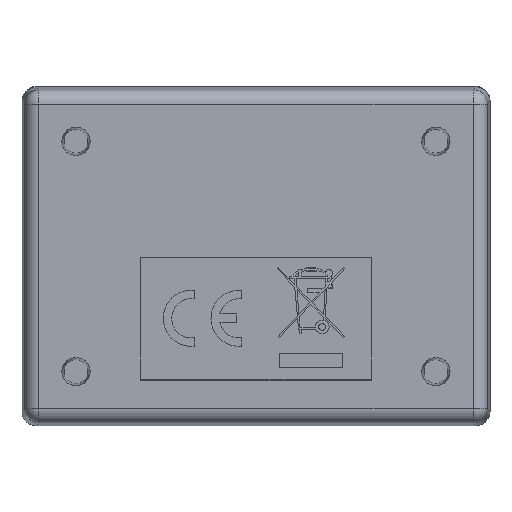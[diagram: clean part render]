
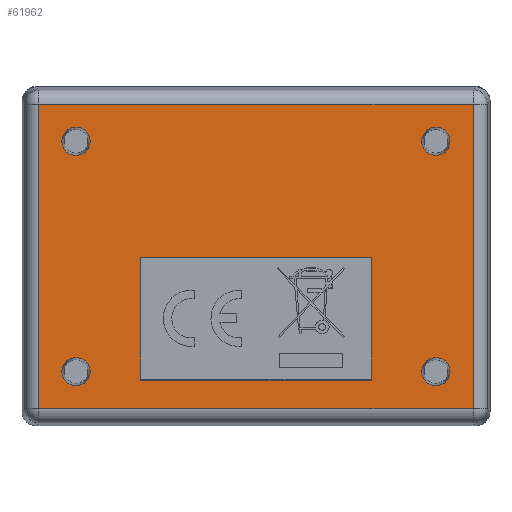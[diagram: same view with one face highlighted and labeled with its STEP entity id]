
A CAD part, front view. The second image highlights one B-rep face of the part: STEP entity #61962.
In plain terms, the highlighted planar face has unit normal (0, -1, 0) as drawn and (0, 0, -1) by its records, which use the part's own axes.
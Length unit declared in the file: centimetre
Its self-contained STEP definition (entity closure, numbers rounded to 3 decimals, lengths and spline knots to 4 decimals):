
#25588=VECTOR('',#84988,1.);
#25591=VECTOR('',#84992,1.);
#25594=VECTOR('',#84996,1.);
#25597=VECTOR('',#85000,1.);
#25758=VECTOR('',#85233,1.);
#25759=VECTOR('',#85234,1.);
#25760=VECTOR('',#85235,1.);
#25761=VECTOR('',#85236,1.);
#30139=LINE('',#67964,#25588);
#30142=LINE('',#67970,#25591);
#30145=LINE('',#67976,#25594);
#30148=LINE('',#67981,#25597);
#30309=LINE('',#69056,#25758);
#30310=LINE('',#69059,#25759);
#30311=LINE('',#69061,#25760);
#30312=LINE('',#69063,#25761);
#34428=PLANE('',#64098);
#36151=VERTEX_POINT('',#67963);
#36152=VERTEX_POINT('',#67965);
#36154=VERTEX_POINT('',#67971);
#36156=VERTEX_POINT('',#67977);
#36277=VERTEX_POINT('',#69049);
#36278=VERTEX_POINT('',#69051);
#36279=VERTEX_POINT('',#69053);
#36280=VERTEX_POINT('',#69055);
#36281=VERTEX_POINT('',#69057);
#36282=VERTEX_POINT('',#69058);
#36283=VERTEX_POINT('',#69060);
#36284=VERTEX_POINT('',#69062);
#39611=CIRCLE('',#64099,0.1249);
#39612=CIRCLE('',#64100,0.1249);
#39613=CIRCLE('',#64101,0.1249);
#39614=CIRCLE('',#64102,0.1249);
#40426=EDGE_CURVE('',#36152,#36151,#30139,.F.);
#40429=EDGE_CURVE('',#36154,#36152,#30142,.F.);
#40432=EDGE_CURVE('',#36156,#36154,#30145,.F.);
#40435=EDGE_CURVE('',#36151,#36156,#30148,.F.);
#40616=EDGE_CURVE('',#36277,#36277,#39611,.F.);
#40617=EDGE_CURVE('',#36278,#36278,#39612,.F.);
#40618=EDGE_CURVE('',#36279,#36279,#39613,.F.);
#40619=EDGE_CURVE('',#36280,#36280,#39614,.F.);
#40620=EDGE_CURVE('',#36281,#36282,#30309,.T.);
#40621=EDGE_CURVE('',#36283,#36281,#30310,.T.);
#40622=EDGE_CURVE('',#36284,#36283,#30311,.T.);
#40623=EDGE_CURVE('',#36282,#36284,#30312,.T.);
#47085=ORIENTED_EDGE('',*,*,#40616,.T.);
#47086=ORIENTED_EDGE('',*,*,#40617,.T.);
#47087=ORIENTED_EDGE('',*,*,#40618,.T.);
#47088=ORIENTED_EDGE('',*,*,#40619,.T.);
#47089=ORIENTED_EDGE('',*,*,#40620,.F.);
#47090=ORIENTED_EDGE('',*,*,#40621,.F.);
#47091=ORIENTED_EDGE('',*,*,#40622,.F.);
#47092=ORIENTED_EDGE('',*,*,#40623,.F.);
#47093=ORIENTED_EDGE('',*,*,#40426,.T.);
#47094=ORIENTED_EDGE('',*,*,#40435,.T.);
#47095=ORIENTED_EDGE('',*,*,#40432,.T.);
#47096=ORIENTED_EDGE('',*,*,#40429,.T.);
#57433=EDGE_LOOP('',(#47085));
#57434=EDGE_LOOP('',(#47086));
#57435=EDGE_LOOP('',(#47087));
#57436=EDGE_LOOP('',(#47088));
#57437=EDGE_LOOP('',(#47089,#47090,#47091,#47092));
#57438=EDGE_LOOP('',(#47093,#47094,#47095,#47096));
#59711=FACE_BOUND('',#57433,.T.);
#59712=FACE_BOUND('',#57434,.T.);
#59713=FACE_BOUND('',#57435,.T.);
#59714=FACE_BOUND('',#57436,.T.);
#59715=FACE_BOUND('',#57437,.T.);
#59716=FACE_BOUND('',#57438,.T.);
#61962=ADVANCED_FACE('',(#59711,#59712,#59713,#59714,#59715,#59716),#34428,
 .F.);
#64098=AXIS2_PLACEMENT_3D('',#69047,#85224,$);
#64099=AXIS2_PLACEMENT_3D('',#69048,#85225,#85226);
#64100=AXIS2_PLACEMENT_3D('',#69050,#85227,#85228);
#64101=AXIS2_PLACEMENT_3D('',#69052,#85229,#85230);
#64102=AXIS2_PLACEMENT_3D('',#69054,#85231,#85232);
#67963=CARTESIAN_POINT('',(1.091,-1.0176,-0.0032));
#67964=CARTESIAN_POINT('',(0.1374,-1.0176,-0.0032));
#67965=CARTESIAN_POINT('',(0.0083,-1.0176,-0.0032));
#67970=CARTESIAN_POINT('',(0.0083,0.,-0.0032));
#67971=CARTESIAN_POINT('',(0.0083,1.0176,-0.0032));
#67976=CARTESIAN_POINT('',(0.1374,1.0176,-0.0032));
#67977=CARTESIAN_POINT('',(1.091,1.0176,-0.0032));
#67981=CARTESIAN_POINT('',(1.091,0.,-0.0032));
#69047=CARTESIAN_POINT('',(0.,0.,
-0.0032));
#69048=CARTESIAN_POINT('',(1.016,1.5875,-0.0032));
#69049=CARTESIAN_POINT('',(1.1409,1.5875,-0.0032));
#69050=CARTESIAN_POINT('',(1.016,-1.5875,-0.0032));
#69051=CARTESIAN_POINT('',(1.1409,-1.5875,-0.0032));
#69052=CARTESIAN_POINT('',(-1.016,-1.5875,-0.0032));
#69053=CARTESIAN_POINT('',(-0.8911,-1.5875,-0.0032));
#69054=CARTESIAN_POINT('',(-1.016,1.5875,-0.0032));
#69055=CARTESIAN_POINT('',(-0.8911,1.5875,-0.0032));
#69056=CARTESIAN_POINT('',(0.,1.9149,-0.0032));
#69057=CARTESIAN_POINT('',(1.3434,1.9149,-0.0032));
#69058=CARTESIAN_POINT('',(-1.3434,1.9149,-0.0032));
#69059=CARTESIAN_POINT('',(1.3434,0.,-0.0032));
#69060=CARTESIAN_POINT('',(1.3434,-1.9149,-0.0032));
#69061=CARTESIAN_POINT('',(0.,-1.9149,-0.0032));
#69062=CARTESIAN_POINT('',(-1.3434,-1.9149,-0.0032));
#69063=CARTESIAN_POINT('',(-1.3434,0.,-0.0032));
#84988=DIRECTION('',(-1.,0.,0.));
#84992=DIRECTION('',(0.,1.,0.));
#84996=DIRECTION('',(1.,0.,0.));
#85000=DIRECTION('',(0.,-1.,0.));
#85224=DIRECTION('',(0.,0.,1.));
#85225=DIRECTION('',(0.,0.,-1.));
#85226=DIRECTION('',(-0.125,0.,0.));
#85227=DIRECTION('',(0.,0.,-1.));
#85228=DIRECTION('',(-0.125,0.,0.));
#85229=DIRECTION('',(0.,0.,-1.));
#85230=DIRECTION('',(-0.125,0.,0.));
#85231=DIRECTION('',(0.,0.,-1.));
#85232=DIRECTION('',(-0.125,0.,0.));
#85233=DIRECTION('',(-1.,0.,0.));
#85234=DIRECTION('',(0.,1.,0.));
#85235=DIRECTION('',(1.,0.,0.));
#85236=DIRECTION('',(0.,-1.,0.));
